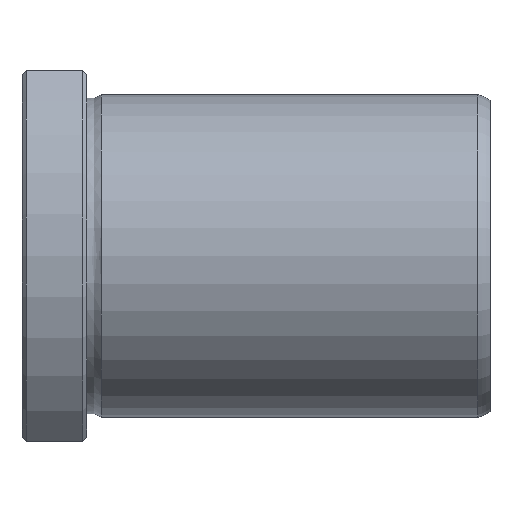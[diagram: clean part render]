
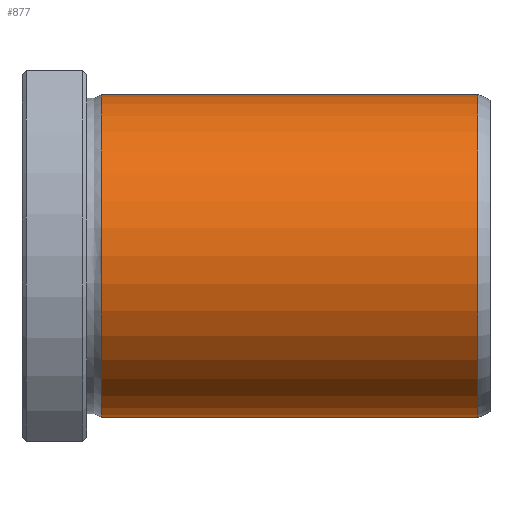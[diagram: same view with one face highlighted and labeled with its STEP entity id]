
A CAD part, top view. The second image highlights one B-rep face of the part: STEP entity #877.
In plain terms, the highlighted cylindrical face has radius 20 mm (diameter 40 mm), a full revolution.
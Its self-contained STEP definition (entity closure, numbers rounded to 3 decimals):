
#843=CARTESIAN_POINT('',(56.502,0.0,20.));
#844=VERTEX_POINT('',#843);
#845=CARTESIAN_POINT('',(56.502,0.0,0.0));
#846=DIRECTION('',(-1.0,0.0,0.0));
#847=DIRECTION('',(0.0,0.0,1.0));
#848=AXIS2_PLACEMENT_3D('',#845,#846,#847);
#849=CIRCLE('',#848,20.);
#850=EDGE_CURVE('',#844,#844,#849,.T.);
#858=CARTESIAN_POINT('',(33.162,0.0,0.0));
#859=DIRECTION('',(-1.0,0.0,0.0));
#860=DIRECTION('',(0.0,0.0,1.0));
#861=AXIS2_PLACEMENT_3D('',#858,#859,#860);
#862=CYLINDRICAL_SURFACE('',#861,20.);
#863=CARTESIAN_POINT('',(9.823,0.0,20.));
#864=VERTEX_POINT('',#863);
#865=CARTESIAN_POINT('',(9.823,0.0,0.0));
#866=DIRECTION('',(-1.0,0.0,0.0));
#867=DIRECTION('',(0.0,0.0,1.0));
#868=AXIS2_PLACEMENT_3D('',#865,#866,#867);
#869=CIRCLE('',#868,20.);
#870=EDGE_CURVE('',#864,#864,#869,.T.);
#871=ORIENTED_EDGE('',*,*,#870,.F.);
#872=EDGE_LOOP('',(#871));
#873=FACE_OUTER_BOUND('',#872,.T.);
#874=ORIENTED_EDGE('',*,*,#850,.T.);
#875=EDGE_LOOP('',(#874));
#876=FACE_BOUND('',#875,.T.);
#877=ADVANCED_FACE('',(#873,#876),#862,.T.);
